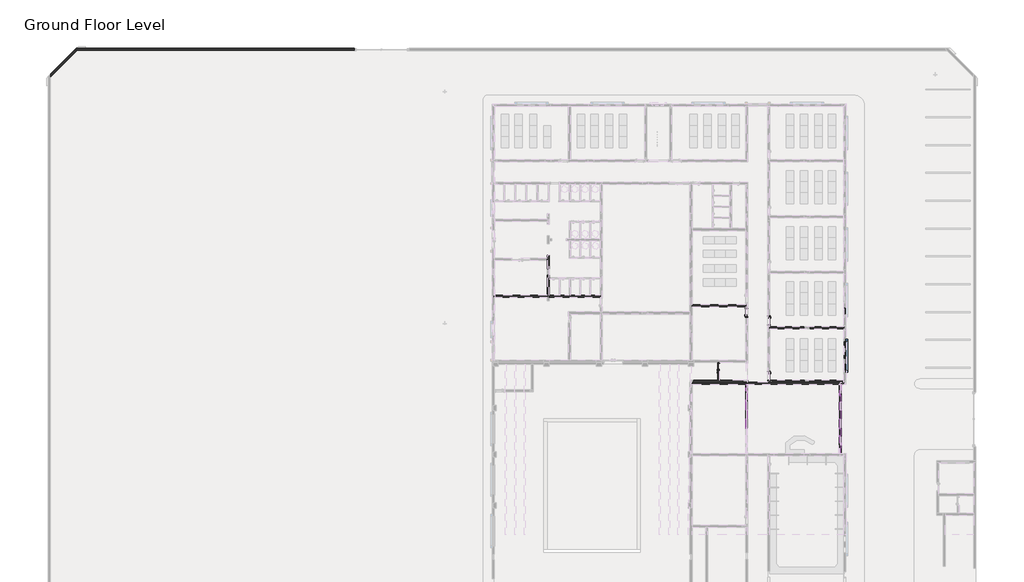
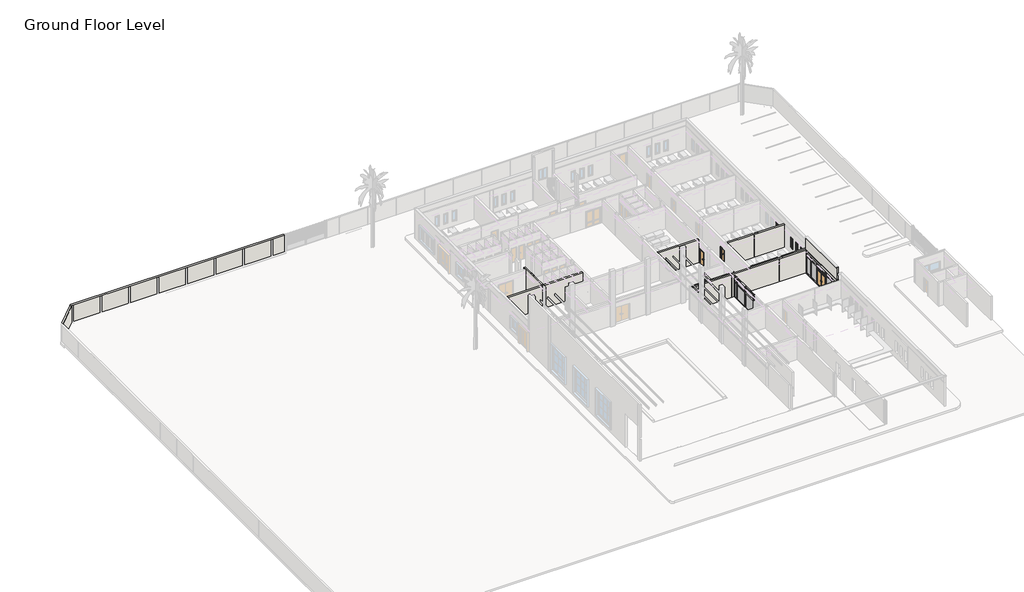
# One storey, part 6 of 23: 44 members, 16 plates, 11 walls, 5 doors, 5 windows.
"""IFC4 building model written with IfcOpenShell, lengths in millimetres."""

from ifc_helpers import new_model, si_unit, frame, origin, place, context, project, spatial, polyline, outline, extrude, faceted_brep, transform, mapped, element, save
from components import int_double_flush_nz_1800_x_2500_136b044d, int_single_flush_nz_900_x_2100_021ef152, m_curtain_wall_dbl_glass_m_curtain_wall_dbl_glass_e02fd95a, rectangular_mullion_50_x_150mm_c0aabc74, rectangular_mullion_50_x_150mm_79b53f25, rectangular_mullion_50_x_150mm_c9e8804c, rectangular_mullion_50_x_150mm_f0154c62, rectangular_mullion_50_x_150mm_3a148f0f, rectangular_mullion_50_x_150mm_5a145be0, rectangular_mullion_50_x_150mm_aa47fe12, rectangular_mullion_50_x_150mm_de483d99, rectangular_mullion_50_x_150mm_ab54daf0, rectangular_mullion_50_x_150mm_3a321350, rectangular_mullion_50_x_150mm_7a83b0e5, rectangular_mullion_50_x_150mm_9cef7b28, rectangular_mullion_50_x_150mm_4d58d98e, rectangular_mullion_50_x_150mm_792551fd, rectangular_mullion_50_x_150mm_23485ade, rectangular_mullion_50_x_150mm_35d6a770, rectangular_mullion_50_x_150mm_3ddb3363, rectangular_mullion_50_x_150mm_64d38db8, rectangular_mullion_50_x_150mm_68b3818a, system_panel_glazed_d0e91aec, system_panel_glazed_3409cc1e, system_panel_glazed_c55c287d, system_panel_glazed_65c4ff5a, system_panel_glazed_45c84e56, system_panel_glazed_78f5b605, system_panel_glazed_9a752446, system_panel_glazed_ebf72a38, system_panel_glazed_8493d7a6, system_panel_glazed_0c7632f4, system_panel_glazed_ec99e3cf, system_panel_glazed_dac4f711, window_batten_type_1_65f01d97, window_single_shutter_w3_b236610e

model = new_model("IFC4")

# Units and contexts
model_context = context("Model", 3, world=origin())
ifc_project = project(units=[si_unit("LENGTHUNIT", "METRE", prefix="MILLI")], contexts=[model_context])

# Site, building, storey
site = spatial("IfcSite", under=ifc_project)
building = spatial("IfcBuilding", under=site)
storey = spatial("IfcBuildingStorey", under=building, Name="Ground Floor Level", Elevation=900.0)

# Doors
placement = place(None, origin())
int_double_flush_nz_1800_x_2500_shape = int_double_flush_nz_1800_x_2500_136b044d(model_context)
element("IfcDoor", 1, ObjectType="Int Double-Flush (NZ) : 1800 x 2500", at=placement, inside=storey, context=model_context, shape_type="MappedRepresentation", body=[
    mapped(int_double_flush_nz_1800_x_2500_shape, transform((2362.7672395, -7149.7846466, 900.0), x_axis=(0.0, 1.0, 0.0), y_axis=(-1.0, 0.0, 0.0), z_axis=(0.0, 0.0, 1.0))),
])
int_single_flush_nz_900_x_2100_shape = int_single_flush_nz_900_x_2100_021ef152(model_context)
element("IfcDoor", 2, ObjectType="Int Single-Flush (NZ) : 900 x 2100", at=placement, inside=storey, context=model_context, shape_type="MappedRepresentation", body=[
    mapped(int_single_flush_nz_900_x_2100_shape, transform((7752.7672395, -1750.7846466, 1000.0), x_axis=(0.0, -1.0, 0.0), y_axis=(1.0, 0.0, 0.0), z_axis=(0.0, 0.0, 1.0))),
])
element("IfcDoor", 3, ObjectType="Int Single-Flush (NZ) : 900 x 2100", at=placement, inside=storey, context=model_context, shape_type="MappedRepresentation", body=[
    mapped(int_single_flush_nz_900_x_2100_shape, transform((7752.7672395, -7730.7846466, 1000.0), x_axis=(0.0, -1.0, 0.0), y_axis=(1.0, 0.0, 0.0), z_axis=(0.0, 0.0, 1.0))),
])
element("IfcDoor", 4, ObjectType="Int Single-Flush (NZ) : 900 x 2100", at=placement, inside=storey, context=model_context, shape_type="MappedRepresentation", body=[
    mapped(int_single_flush_nz_900_x_2100_shape, transform((5352.7672395, -758.7846466, 1000.0), x_axis=(0.0, 1.0, 0.0), y_axis=(-1.0, 0.0, 0.0), z_axis=(0.0, 0.0, 1.0))),
])
m_curtain_wall_dbl_glass_m_curtain_wall_dbl_glass_shape = m_curtain_wall_dbl_glass_m_curtain_wall_dbl_glass_e02fd95a(model_context)
element("IfcDoor", 5, ObjectType="M_Curtain Wall Dbl Glass : M_Curtain Wall Dbl Glass", at=placement, inside=storey, context=model_context, shape_type="MappedRepresentation", body=[
    mapped(m_curtain_wall_dbl_glass_m_curtain_wall_dbl_glass_shape, transform((15452.7672395, -12279.7846466, 1050.0), x_axis=(0.0, -1.0, 0.0), y_axis=(1.0, 0.0, 0.0), z_axis=(0.0, 0.0, 1.0))),
])

# Members
rectangular_mullion_50_x_150mm_shape = rectangular_mullion_50_x_150mm_c0aabc74(model_context)
element("IfcMember", 6, ObjectType="Rectangular Mullion : 50 x 150mm", at=placement, inside=storey, context=model_context, shape_type="MappedRepresentation", body=[
    mapped(rectangular_mullion_50_x_150mm_shape, transform((5352.7672395, -8614.7846466, 1000.0), x_axis=(0.0, 0.0, -1.0), y_axis=(-1.0, 0.0, 0.0), z_axis=(0.0, 1.0, 0.0))),
])
rectangular_mullion_50_x_150mm_2_shape = rectangular_mullion_50_x_150mm_79b53f25(model_context)
element("IfcMember", 7, ObjectType="Rectangular Mullion : 50 x 150mm", at=placement, inside=storey, context=model_context, shape_type="MappedRepresentation", body=[
    mapped(rectangular_mullion_50_x_150mm_2_shape, transform((5352.7672395, -11254.7846466, 1000.0), x_axis=(0.0, -1.0, 0.0), y_axis=(-1.0, 0.0, 0.0), z_axis=(0.0, 0.0, -1.0))),
])
element("IfcMember", 8, ObjectType="Rectangular Mullion : 50 x 150mm", at=placement, inside=storey, context=model_context, shape_type="MappedRepresentation", body=[
    mapped(rectangular_mullion_50_x_150mm_2_shape, transform((5352.7672395, -9204.7846466, 1000.0), x_axis=(0.0, -1.0, 0.0), y_axis=(-1.0, 0.0, 0.0), z_axis=(0.0, 0.0, -1.0))),
])
rectangular_mullion_50_x_150mm_3_shape = rectangular_mullion_50_x_150mm_c9e8804c(model_context)
element("IfcMember", 9, ObjectType="Rectangular Mullion : 50 x 150mm", at=placement, inside=storey, context=model_context, shape_type="MappedRepresentation", body=[
    mapped(rectangular_mullion_50_x_150mm_3_shape, transform((5352.7672395, -9179.7846466, 3250.0), x_axis=(0.0, 0.0, 1.0), y_axis=(-1.0, 0.0, 0.0), z_axis=(0.0, -1.0, 0.0))),
])
rectangular_mullion_50_x_150mm_4_shape = rectangular_mullion_50_x_150mm_f0154c62(model_context)
element("IfcMember", 10, ObjectType="Rectangular Mullion : 50 x 150mm", at=placement, inside=storey, context=model_context, shape_type="MappedRepresentation", body=[
    mapped(rectangular_mullion_50_x_150mm_4_shape, transform((15452.7672395, -14779.7846466, 3550.0), x_axis=(0.0, 0.0, 1.0), y_axis=(-1.0, 0.0, 0.0), z_axis=(0.0, -1.0, 0.0))),
])
element("IfcMember", 11, ObjectType="Rectangular Mullion : 50 x 150mm", at=placement, inside=storey, context=model_context, shape_type="MappedRepresentation", body=[
    mapped(rectangular_mullion_50_x_150mm_4_shape, transform((15452.7672395, -11229.7846466, 3550.0), x_axis=(0.0, 0.0, 1.0), y_axis=(-1.0, 0.0, 0.0), z_axis=(0.0, -1.0, 0.0))),
])
rectangular_mullion_50_x_150mm_5_shape = rectangular_mullion_50_x_150mm_3a148f0f(model_context)
element("IfcMember", 12, ObjectType="Rectangular Mullion : 50 x 150mm", at=placement, inside=storey, context=model_context, shape_type="MappedRepresentation", body=[
    mapped(rectangular_mullion_50_x_150mm_5_shape, transform((5352.7672395, -11229.7846466, 3250.0), x_axis=(0.0, 0.0, 1.0), y_axis=(-1.0, 0.0, 0.0), z_axis=(0.0, -1.0, 0.0))),
])
element("IfcMember", 13, ObjectType="Rectangular Mullion : 50 x 150mm", at=placement, inside=storey, context=model_context, shape_type="MappedRepresentation", body=[
    mapped(rectangular_mullion_50_x_150mm_5_shape, transform((15452.7672395, -13279.7846466, 3200.0), x_axis=(0.0, 0.0, 1.0), y_axis=(-1.0, 0.0, 0.0), z_axis=(0.0, -1.0, 0.0))),
])
element("IfcMember", 14, ObjectType="Rectangular Mullion : 50 x 150mm", at=placement, inside=storey, context=model_context, shape_type="MappedRepresentation", body=[
    mapped(rectangular_mullion_50_x_150mm_5_shape, transform((15452.7672395, -13279.7846466, 3550.0), x_axis=(0.0, 0.0, 1.0), y_axis=(-1.0, 0.0, 0.0), z_axis=(0.0, -1.0, 0.0))),
])
rectangular_mullion_50_x_150mm_6_shape = rectangular_mullion_50_x_150mm_5a145be0(model_context)
element("IfcMember", 15, ObjectType="Rectangular Mullion : 50 x 150mm", at=placement, inside=storey, context=model_context, shape_type="MappedRepresentation", body=[
    mapped(rectangular_mullion_50_x_150mm_6_shape, transform((15452.7672395, -13329.7846466, 1000.0), x_axis=(0.0, 0.0, -1.0), y_axis=(-1.0, 0.0, 0.0), z_axis=(0.0, 1.0, 0.0))),
])
element("IfcMember", 16, ObjectType="Rectangular Mullion : 50 x 150mm", at=placement, inside=storey, context=model_context, shape_type="MappedRepresentation", body=[
    mapped(rectangular_mullion_50_x_150mm_6_shape, transform((15452.7672395, -9779.7846466, 1000.0), x_axis=(0.0, 0.0, -1.0), y_axis=(-1.0, 0.0, 0.0), z_axis=(0.0, 1.0, 0.0))),
])
rectangular_mullion_50_x_150mm_7_shape = rectangular_mullion_50_x_150mm_aa47fe12(model_context)
element("IfcMember", 17, ObjectType="Rectangular Mullion : 50 x 150mm", at=placement, inside=storey, context=model_context, shape_type="MappedRepresentation", body=[
    mapped(rectangular_mullion_50_x_150mm_7_shape, transform((5352.7672395, -11279.7846466, 1000.0), x_axis=(0.0, 0.0, -1.0), y_axis=(-1.0, 0.0, 0.0), z_axis=(0.0, 1.0, 0.0))),
])
element("IfcMember", 18, ObjectType="Rectangular Mullion : 50 x 150mm", at=placement, inside=storey, context=model_context, shape_type="MappedRepresentation", body=[
    mapped(rectangular_mullion_50_x_150mm_7_shape, transform((5352.7672395, -9229.7846466, 1000.0), x_axis=(0.0, 0.0, -1.0), y_axis=(-1.0, 0.0, 0.0), z_axis=(0.0, 1.0, 0.0))),
])
element("IfcMember", 19, ObjectType="Rectangular Mullion : 50 x 150mm", at=placement, inside=storey, context=model_context, shape_type="MappedRepresentation", body=[
    mapped(rectangular_mullion_50_x_150mm_7_shape, transform((15452.7672395, -11279.7846466, 1000.0), x_axis=(0.0, 0.0, -1.0), y_axis=(-1.0, 0.0, 0.0), z_axis=(0.0, 1.0, 0.0))),
])
element("IfcMember", 20, ObjectType="Rectangular Mullion : 50 x 150mm", at=placement, inside=storey, context=model_context, shape_type="MappedRepresentation", body=[
    mapped(rectangular_mullion_50_x_150mm_6_shape, transform((15452.7672395, -14779.7846466, 4150.0), x_axis=(0.0, 0.0, 1.0), y_axis=(-1.0, 0.0, 0.0), z_axis=(0.0, -1.0, 0.0))),
])
element("IfcMember", 21, ObjectType="Rectangular Mullion : 50 x 150mm", at=placement, inside=storey, context=model_context, shape_type="MappedRepresentation", body=[
    mapped(rectangular_mullion_50_x_150mm_6_shape, transform((15452.7672395, -11229.7846466, 4150.0), x_axis=(0.0, 0.0, 1.0), y_axis=(-1.0, 0.0, 0.0), z_axis=(0.0, -1.0, 0.0))),
])
element("IfcMember", 22, ObjectType="Rectangular Mullion : 50 x 150mm", at=placement, inside=storey, context=model_context, shape_type="MappedRepresentation", body=[
    mapped(rectangular_mullion_50_x_150mm_7_shape, transform((5352.7672395, -13279.7846466, 4150.0), x_axis=(0.0, 0.0, 1.0), y_axis=(-1.0, 0.0, 0.0), z_axis=(0.0, -1.0, 0.0))),
])
element("IfcMember", 23, ObjectType="Rectangular Mullion : 50 x 150mm", at=placement, inside=storey, context=model_context, shape_type="MappedRepresentation", body=[
    mapped(rectangular_mullion_50_x_150mm_7_shape, transform((5352.7672395, -11229.7846466, 4150.0), x_axis=(0.0, 0.0, 1.0), y_axis=(-1.0, 0.0, 0.0), z_axis=(0.0, -1.0, 0.0))),
])
element("IfcMember", 24, ObjectType="Rectangular Mullion : 50 x 150mm", at=placement, inside=storey, context=model_context, shape_type="MappedRepresentation", body=[
    mapped(rectangular_mullion_50_x_150mm_7_shape, transform((15452.7672395, -13279.7846466, 4150.0), x_axis=(0.0, 0.0, 1.0), y_axis=(-1.0, 0.0, 0.0), z_axis=(0.0, -1.0, 0.0))),
])
element("IfcMember", 25, ObjectType="Rectangular Mullion : 50 x 150mm", at=placement, inside=storey, context=model_context, shape_type="MappedRepresentation", body=[
    mapped(rectangular_mullion_50_x_150mm_shape, transform((5352.7672395, -9179.7846466, 4150.0), x_axis=(0.0, 0.0, 1.0), y_axis=(-1.0, 0.0, 0.0), z_axis=(0.0, -1.0, 0.0))),
])
rectangular_mullion_50_x_150mm_8_shape = rectangular_mullion_50_x_150mm_de483d99(model_context)
element("IfcMember", 26, ObjectType="Rectangular Mullion : 50 x 150mm", at=placement, inside=storey, context=model_context, shape_type="MappedRepresentation", body=[
    mapped(rectangular_mullion_50_x_150mm_8_shape, transform((5352.7672395, -8564.7846466, 3250.0), x_axis=(0.0, 1.0, 0.0), y_axis=(-1.0, 0.0, 0.0), z_axis=(0.0, 0.0, 1.0))),
])
rectangular_mullion_50_x_150mm_9_shape = rectangular_mullion_50_x_150mm_ab54daf0(model_context)
element("IfcMember", 27, ObjectType="Rectangular Mullion : 50 x 150mm", at=placement, inside=storey, context=model_context, shape_type="MappedRepresentation", body=[
    mapped(rectangular_mullion_50_x_150mm_9_shape, transform((15452.7672395, -8614.7846466, 1000.0), x_axis=(0.0, 0.0, -1.0), y_axis=(-1.0, 0.0, 0.0), z_axis=(0.0, 1.0, 0.0))),
])
rectangular_mullion_50_x_150mm_10_shape = rectangular_mullion_50_x_150mm_3a321350(model_context)
element("IfcMember", 28, ObjectType="Rectangular Mullion : 50 x 150mm", at=placement, inside=storey, context=model_context, shape_type="MappedRepresentation", body=[
    mapped(rectangular_mullion_50_x_150mm_10_shape, transform((15452.7672395, -14829.7846466, 1000.0), x_axis=(0.0, 0.0, -1.0), y_axis=(-1.0, 0.0, 0.0), z_axis=(0.0, 1.0, 0.0))),
])
element("IfcMember", 29, ObjectType="Rectangular Mullion : 50 x 150mm", at=placement, inside=storey, context=model_context, shape_type="MappedRepresentation", body=[
    mapped(rectangular_mullion_50_x_150mm_9_shape, transform((15452.7672395, -9729.7846466, 4150.0), x_axis=(0.0, 0.0, 1.0), y_axis=(-1.0, 0.0, 0.0), z_axis=(0.0, -1.0, 0.0))),
])
rectangular_mullion_50_x_150mm_11_shape = rectangular_mullion_50_x_150mm_7a83b0e5(model_context)
element("IfcMember", 30, ObjectType="Rectangular Mullion : 50 x 150mm", at=placement, inside=storey, context=model_context, shape_type="MappedRepresentation", body=[
    mapped(rectangular_mullion_50_x_150mm_11_shape, transform((15452.7672395, -14804.7846466, 3200.0), x_axis=(0.0, -1.0, 0.0), y_axis=(-1.0, 0.0, 0.0), z_axis=(0.0, 0.0, -1.0))),
])
element("IfcMember", 31, ObjectType="Rectangular Mullion : 50 x 150mm", at=placement, inside=storey, context=model_context, shape_type="MappedRepresentation", body=[
    mapped(rectangular_mullion_50_x_150mm_11_shape, transform((15452.7672395, -9754.7846466, 3200.0), x_axis=(0.0, -1.0, 0.0), y_axis=(-1.0, 0.0, 0.0), z_axis=(0.0, 0.0, -1.0))),
])
element("IfcMember", 32, ObjectType="Rectangular Mullion : 50 x 150mm", at=placement, inside=storey, context=model_context, shape_type="MappedRepresentation", body=[
    mapped(rectangular_mullion_50_x_150mm_11_shape, transform((15452.7672395, -13304.7846466, 3200.0), x_axis=(0.0, -1.0, 0.0), y_axis=(-1.0, 0.0, 0.0), z_axis=(0.0, 0.0, -1.0))),
])
element("IfcMember", 33, ObjectType="Rectangular Mullion : 50 x 150mm", at=placement, inside=storey, context=model_context, shape_type="MappedRepresentation", body=[
    mapped(rectangular_mullion_50_x_150mm_11_shape, transform((15452.7672395, -11254.7846466, 3200.0), x_axis=(0.0, -1.0, 0.0), y_axis=(-1.0, 0.0, 0.0), z_axis=(0.0, 0.0, -1.0))),
])
rectangular_mullion_50_x_150mm_12_shape = rectangular_mullion_50_x_150mm_9cef7b28(model_context)
element("IfcMember", 34, ObjectType="Rectangular Mullion : 50 x 150mm", at=placement, inside=storey, context=model_context, shape_type="MappedRepresentation", body=[
    mapped(rectangular_mullion_50_x_150mm_12_shape, transform((15452.7672395, -14804.7846466, 1000.0), x_axis=(0.0, -1.0, 0.0), y_axis=(-1.0, 0.0, 0.0), z_axis=(0.0, 0.0, -1.0))),
])
element("IfcMember", 35, ObjectType="Rectangular Mullion : 50 x 150mm", at=placement, inside=storey, context=model_context, shape_type="MappedRepresentation", body=[
    mapped(rectangular_mullion_50_x_150mm_12_shape, transform((15452.7672395, -9754.7846466, 1000.0), x_axis=(0.0, -1.0, 0.0), y_axis=(-1.0, 0.0, 0.0), z_axis=(0.0, 0.0, -1.0))),
])
element("IfcMember", 36, ObjectType="Rectangular Mullion : 50 x 150mm", at=placement, inside=storey, context=model_context, shape_type="MappedRepresentation", body=[
    mapped(rectangular_mullion_50_x_150mm_12_shape, transform((15452.7672395, -13304.7846466, 1000.0), x_axis=(0.0, -1.0, 0.0), y_axis=(-1.0, 0.0, 0.0), z_axis=(0.0, 0.0, -1.0))),
])
element("IfcMember", 37, ObjectType="Rectangular Mullion : 50 x 150mm", at=placement, inside=storey, context=model_context, shape_type="MappedRepresentation", body=[
    mapped(rectangular_mullion_50_x_150mm_12_shape, transform((15452.7672395, -11254.7846466, 1000.0), x_axis=(0.0, -1.0, 0.0), y_axis=(-1.0, 0.0, 0.0), z_axis=(0.0, 0.0, -1.0))),
])
rectangular_mullion_50_x_150mm_13_shape = rectangular_mullion_50_x_150mm_4d58d98e(model_context)
element("IfcMember", 38, ObjectType="Rectangular Mullion : 50 x 150mm", at=placement, inside=storey, context=model_context, shape_type="MappedRepresentation", body=[
    mapped(rectangular_mullion_50_x_150mm_13_shape, transform((15452.7672395, -9729.7846466, 3550.0), x_axis=(0.0, 0.0, 1.0), y_axis=(-1.0, 0.0, 0.0), z_axis=(0.0, -1.0, 0.0))),
])
rectangular_mullion_50_x_150mm_14_shape = rectangular_mullion_50_x_150mm_792551fd(model_context)
element("IfcMember", 39, ObjectType="Rectangular Mullion : 50 x 150mm", at=placement, inside=storey, context=model_context, shape_type="MappedRepresentation", body=[
    mapped(rectangular_mullion_50_x_150mm_14_shape, transform((15452.7672395, -8564.7846466, 3200.0), x_axis=(0.0, 1.0, 0.0), y_axis=(-1.0, 0.0, 0.0), z_axis=(0.0, 0.0, 1.0))),
])
rectangular_mullion_50_x_150mm_15_shape = rectangular_mullion_50_x_150mm_23485ade(model_context)
element("IfcMember", 40, ObjectType="Rectangular Mullion : 50 x 150mm", at=placement, inside=storey, context=model_context, shape_type="MappedRepresentation", body=[
    mapped(rectangular_mullion_50_x_150mm_15_shape, transform((15452.7672395, -8564.7846466, 3550.0), x_axis=(0.0, 1.0, 0.0), y_axis=(-1.0, 0.0, 0.0), z_axis=(0.0, 0.0, 1.0))),
])
rectangular_mullion_50_x_150mm_16_shape = rectangular_mullion_50_x_150mm_35d6a770(model_context)
element("IfcMember", 41, ObjectType="Rectangular Mullion : 50 x 150mm", at=placement, inside=storey, context=model_context, shape_type="MappedRepresentation", body=[
    mapped(rectangular_mullion_50_x_150mm_16_shape, transform((5352.7672395, -8564.7846466, 4150.0), x_axis=(0.0, 1.0, 0.0), y_axis=(-1.0, 0.0, 0.0), z_axis=(0.0, 0.0, 1.0))),
])
rectangular_mullion_50_x_150mm_17_shape = rectangular_mullion_50_x_150mm_3ddb3363(model_context)
element("IfcMember", 42, ObjectType="Rectangular Mullion : 50 x 150mm", at=placement, inside=storey, context=model_context, shape_type="MappedRepresentation", body=[
    mapped(rectangular_mullion_50_x_150mm_17_shape, transform((5352.7672395, -13304.7846466, 3250.0), x_axis=(0.0, -1.0, 0.0), y_axis=(-1.0, 0.0, 0.0), z_axis=(0.0, 0.0, -1.0))),
])
element("IfcMember", 43, ObjectType="Rectangular Mullion : 50 x 150mm", at=placement, inside=storey, context=model_context, shape_type="MappedRepresentation", body=[
    mapped(rectangular_mullion_50_x_150mm_17_shape, transform((5352.7672395, -11254.7846466, 3250.0), x_axis=(0.0, -1.0, 0.0), y_axis=(-1.0, 0.0, 0.0), z_axis=(0.0, 0.0, -1.0))),
])
element("IfcMember", 44, ObjectType="Rectangular Mullion : 50 x 150mm", at=placement, inside=storey, context=model_context, shape_type="MappedRepresentation", body=[
    mapped(rectangular_mullion_50_x_150mm_17_shape, transform((5352.7672395, -9204.7846466, 3250.0), x_axis=(0.0, -1.0, 0.0), y_axis=(-1.0, 0.0, 0.0), z_axis=(0.0, 0.0, -1.0))),
])
rectangular_mullion_50_x_150mm_18_shape = rectangular_mullion_50_x_150mm_64d38db8(model_context)
element("IfcMember", 45, ObjectType="Rectangular Mullion : 50 x 150mm", at=placement, inside=storey, context=model_context, shape_type="MappedRepresentation", body=[
    mapped(rectangular_mullion_50_x_150mm_18_shape, transform((15452.7672395, -8564.7846466, 4150.0), x_axis=(0.0, 1.0, 0.0), y_axis=(-1.0, 0.0, 0.0), z_axis=(0.0, 0.0, 1.0))),
])
rectangular_mullion_50_x_150mm_19_shape = rectangular_mullion_50_x_150mm_68b3818a(model_context)
element("IfcMember", 46, ObjectType="Rectangular Mullion : 50 x 150mm", at=placement, inside=storey, context=model_context, shape_type="MappedRepresentation", body=[
    mapped(rectangular_mullion_50_x_150mm_19_shape, transform((15452.7672395, -14804.7846466, 3550.0), x_axis=(0.0, -1.0, 0.0), y_axis=(-1.0, 0.0, 0.0), z_axis=(0.0, 0.0, -1.0))),
])
element("IfcMember", 47, ObjectType="Rectangular Mullion : 50 x 150mm", at=placement, inside=storey, context=model_context, shape_type="MappedRepresentation", body=[
    mapped(rectangular_mullion_50_x_150mm_19_shape, transform((15452.7672395, -13304.7846466, 3550.0), x_axis=(0.0, -1.0, 0.0), y_axis=(-1.0, 0.0, 0.0), z_axis=(0.0, 0.0, -1.0))),
])
element("IfcMember", 48, ObjectType="Rectangular Mullion : 50 x 150mm", at=placement, inside=storey, context=model_context, shape_type="MappedRepresentation", body=[
    mapped(rectangular_mullion_50_x_150mm_19_shape, transform((15452.7672395, -11254.7846466, 3550.0), x_axis=(0.0, -1.0, 0.0), y_axis=(-1.0, 0.0, 0.0), z_axis=(0.0, 0.0, -1.0))),
])
element("IfcMember", 49, ObjectType="Rectangular Mullion : 50 x 150mm", at=placement, inside=storey, context=model_context, shape_type="MappedRepresentation", body=[
    mapped(rectangular_mullion_50_x_150mm_19_shape, transform((15452.7672395, -9754.7846466, 3550.0), x_axis=(0.0, -1.0, 0.0), y_axis=(-1.0, 0.0, 0.0), z_axis=(0.0, 0.0, -1.0))),
])

# Plates
system_panel_glazed_shape = system_panel_glazed_d0e91aec(model_context)
element("IfcPlate", 50, ObjectType="System Panel : Glazed", at=placement, inside=storey, context=model_context, shape_type="MappedRepresentation", body=[
    mapped(system_panel_glazed_shape, transform((5352.7672395, -8897.2846466, 1050.0), x_axis=(0.0, -1.0, 0.0), y_axis=(1.0, 0.0, 0.0), z_axis=(0.0, 0.0, 1.0))),
])
system_panel_glazed_2_shape = system_panel_glazed_3409cc1e(model_context)
element("IfcPlate", 51, ObjectType="System Panel : Glazed", at=placement, inside=storey, context=model_context, shape_type="MappedRepresentation", body=[
    mapped(system_panel_glazed_2_shape, transform((5352.7672395, -12279.7846466, 1050.0), x_axis=(0.0, -1.0, 0.0), y_axis=(1.0, 0.0, 0.0), z_axis=(0.0, 0.0, 1.0))),
])
element("IfcPlate", 52, ObjectType="System Panel : Glazed", at=placement, inside=storey, context=model_context, shape_type="MappedRepresentation", body=[
    mapped(system_panel_glazed_2_shape, transform((5352.7672395, -10229.7846466, 1050.0), x_axis=(0.0, -1.0, 0.0), y_axis=(1.0, 0.0, 0.0), z_axis=(0.0, 0.0, 1.0))),
])
system_panel_glazed_3_shape = system_panel_glazed_c55c287d(model_context)
element("IfcPlate", 53, ObjectType="System Panel : Glazed", at=placement, inside=storey, context=model_context, shape_type="MappedRepresentation", body=[
    mapped(system_panel_glazed_3_shape, transform((15452.7672395, -9172.2846466, 1050.0), x_axis=(0.0, -1.0, 0.0), y_axis=(1.0, 0.0, 0.0), z_axis=(0.0, 0.0, 1.0))),
])
system_panel_glazed_4_shape = system_panel_glazed_65c4ff5a(model_context)
element("IfcPlate", 54, ObjectType="System Panel : Glazed", at=placement, inside=storey, context=model_context, shape_type="MappedRepresentation", body=[
    mapped(system_panel_glazed_4_shape, transform((15452.7672395, -15417.2846466, 1050.0), x_axis=(0.0, -1.0, 0.0), y_axis=(1.0, 0.0, 0.0), z_axis=(0.0, 0.0, 1.0))),
])
system_panel_glazed_5_shape = system_panel_glazed_45c84e56(model_context)
element("IfcPlate", 55, ObjectType="System Panel : Glazed", at=placement, inside=storey, context=model_context, shape_type="MappedRepresentation", body=[
    mapped(system_panel_glazed_5_shape, transform((15452.7672395, -14054.7846466, 1050.0), x_axis=(0.0, -1.0, 0.0), y_axis=(1.0, 0.0, 0.0), z_axis=(0.0, 0.0, 1.0))),
])
element("IfcPlate", 56, ObjectType="System Panel : Glazed", at=placement, inside=storey, context=model_context, shape_type="MappedRepresentation", body=[
    mapped(system_panel_glazed_5_shape, transform((15452.7672395, -10504.7846466, 1050.0), x_axis=(0.0, -1.0, 0.0), y_axis=(1.0, 0.0, 0.0), z_axis=(0.0, 0.0, 1.0))),
])
system_panel_glazed_6_shape = system_panel_glazed_78f5b605(model_context)
element("IfcPlate", 57, ObjectType="System Panel : Glazed", at=placement, inside=storey, context=model_context, shape_type="MappedRepresentation", body=[
    mapped(system_panel_glazed_6_shape, transform((15452.7672395, -12279.7846466, 3225.0), x_axis=(0.0, -1.0, 0.0), y_axis=(1.0, 0.0, 0.0), z_axis=(0.0, 0.0, 1.0))),
])
system_panel_glazed_7_shape = system_panel_glazed_9a752446(model_context)
element("IfcPlate", 58, ObjectType="System Panel : Glazed", at=placement, inside=storey, context=model_context, shape_type="MappedRepresentation", body=[
    mapped(system_panel_glazed_7_shape, transform((5352.7672395, -8897.2846466, 3275.0), x_axis=(0.0, -1.0, 0.0), y_axis=(1.0, 0.0, 0.0), z_axis=(0.0, 0.0, 1.0))),
])
system_panel_glazed_8_shape = system_panel_glazed_ebf72a38(model_context)
element("IfcPlate", 59, ObjectType="System Panel : Glazed", at=placement, inside=storey, context=model_context, shape_type="MappedRepresentation", body=[
    mapped(system_panel_glazed_8_shape, transform((5352.7672395, -10229.7846466, 3275.0), x_axis=(0.0, -1.0, 0.0), y_axis=(1.0, 0.0, 0.0), z_axis=(0.0, 0.0, 1.0))),
])
element("IfcPlate", 60, ObjectType="System Panel : Glazed", at=placement, inside=storey, context=model_context, shape_type="MappedRepresentation", body=[
    mapped(system_panel_glazed_8_shape, transform((5352.7672395, -12279.7846466, 3275.0), x_axis=(0.0, -1.0, 0.0), y_axis=(1.0, 0.0, 0.0), z_axis=(0.0, 0.0, 1.0))),
])
system_panel_glazed_9_shape = system_panel_glazed_8493d7a6(model_context)
element("IfcPlate", 61, ObjectType="System Panel : Glazed", at=placement, inside=storey, context=model_context, shape_type="MappedRepresentation", body=[
    mapped(system_panel_glazed_9_shape, transform((15452.7672395, -9172.2846466, 3575.0), x_axis=(0.0, -1.0, 0.0), y_axis=(1.0, 0.0, 0.0), z_axis=(0.0, 0.0, 1.0))),
])
system_panel_glazed_10_shape = system_panel_glazed_0c7632f4(model_context)
element("IfcPlate", 62, ObjectType="System Panel : Glazed", at=placement, inside=storey, context=model_context, shape_type="MappedRepresentation", body=[
    mapped(system_panel_glazed_10_shape, transform((15452.7672395, -10504.7846466, 3575.0), x_axis=(0.0, -1.0, 0.0), y_axis=(1.0, 0.0, 0.0), z_axis=(0.0, 0.0, 1.0))),
])
element("IfcPlate", 63, ObjectType="System Panel : Glazed", at=placement, inside=storey, context=model_context, shape_type="MappedRepresentation", body=[
    mapped(system_panel_glazed_10_shape, transform((15452.7672395, -14054.7846466, 3575.0), x_axis=(0.0, -1.0, 0.0), y_axis=(1.0, 0.0, 0.0), z_axis=(0.0, 0.0, 1.0))),
])
system_panel_glazed_11_shape = system_panel_glazed_ec99e3cf(model_context)
element("IfcPlate", 64, ObjectType="System Panel : Glazed", at=placement, inside=storey, context=model_context, shape_type="MappedRepresentation", body=[
    mapped(system_panel_glazed_11_shape, transform((15452.7672395, -12279.7846466, 3575.0), x_axis=(0.0, -1.0, 0.0), y_axis=(1.0, 0.0, 0.0), z_axis=(0.0, 0.0, 1.0))),
])
system_panel_glazed_12_shape = system_panel_glazed_dac4f711(model_context)
element("IfcPlate", 65, ObjectType="System Panel : Glazed", at=placement, inside=storey, context=model_context, shape_type="MappedRepresentation", body=[
    mapped(system_panel_glazed_12_shape, transform((15452.7672395, -15417.2846466, 3575.0), x_axis=(0.0, -1.0, 0.0), y_axis=(1.0, 0.0, 0.0), z_axis=(0.0, 0.0, 1.0))),
])

# Walls
element("IfcWall", 66, ObjectType="Exterior - Blockwork 200mm", at=placement, inside=storey, context=model_context, shape_type="Brep", body=[
    faceted_brep([(15562.7672395, -16044.7846466, 900.0), (15562.7672395, -8564.7846466, 900.0), (15562.7672395, -8564.7846466, 1000.0), (15562.7672395, -16044.7846466, 1000.0), (15342.7672395, -8564.7846466, 900.0), (15342.7672395, -16044.7846466, 900.0), (15342.7672395, -16044.7846466, 1000.0), (15342.7672395, -8564.7846466, 1000.0), (15452.7672395, -16044.7846466, 900.0), (15452.7672395, -8564.7846466, 900.0)], [[[0, 1, 2, 3]], [[4, 5, 6, 7]], [[3, 6, 5, 8, 0]], [[7, 2, 1, 9, 4]], [[3, 2, 7, 6]], [[1, 0, 8, 5, 4, 9]]]),
    faceted_brep([(15562.7672395, -8564.7846466, 6301.5214377), (15562.7672395, -16044.7846466, 6301.5214377), (15562.7672395, -16044.7846466, 4150.0), (15562.7672395, -8564.7846466, 4150.0), (15342.7672395, -16044.7846466, 6301.5214377), (15342.7672395, -8564.7846466, 6301.5214377), (15342.7672395, -8564.7846466, 4550.0), (15342.7672395, -16044.7846466, 4550.0), (15342.7672395, -8564.7846466, 4150.0), (15342.7672395, -16044.7846466, 4150.0), (15342.7672395, -16044.7846466, 4400.0), (15342.7672395, -8564.7846466, 4400.0), (15552.7672395, -16044.7846466, 4550.0), (15552.7672395, -16044.7846466, 4400.0), (15552.7672395, -8564.7846466, 4400.0), (15552.7672395, -8564.7846466, 4550.0)], [[[0, 1, 2, 3]], [[4, 5, 6, 7]], [[8, 9, 10, 11]], [[2, 1, 4, 7, 12, 13, 10, 9]], [[0, 3, 8, 11, 14, 15, 6, 5]], [[3, 2, 9, 8]], [[15, 12, 7, 6]], [[12, 15, 14, 13]], [[13, 14, 11, 10]], [[1, 0, 5, 4]]]),
])
element("IfcWall", 67, ObjectType="Exterior - Blockwork 200mm", at=placement, inside=storey, context=model_context, shape_type="Brep", body=[
    faceted_brep([(-67127.2327605, 27465.2153534, 600.0), (-66816.1057768, 27465.2153534, 600.0), (-36947.2327605, 27465.2153534, 600.0), (-36947.2327605, 27465.2153534, 3100.0), (-66816.1057768, 27465.2153534, 3100.0), (-67127.2327605, 27465.2153534, 3100.0), (-66907.2327605, 27685.2153534, 600.0), (-66907.2327605, 27685.2153534, 3100.0), (-36947.2327605, 27685.2153534, 3100.0), (-36947.2327605, 27685.2153534, 600.0)], [[[0, 1, 2, 3, 4, 5]], [[6, 7, 8, 9]], [[2, 1, 0, 6, 9]], [[3, 2, 9, 8]], [[5, 4, 3, 8, 7]], [[0, 5, 7, 6]]]),
])
element("IfcWall", 68, ObjectType="Exterior - Blockwork 200mm", at=placement, inside=storey, context=model_context, shape_type="SweptSolid", body=[
    extrude(outline(polyline([(-66816.1057768, 27465.2153534), (-69727.2327605, 24554.0883697), (-69727.2327605, 24865.2153534), (-67127.2327605, 27465.2153534), (-66816.1057768, 27465.2153534)])), frame((0.0, 0.0, 600.0), z_axis=(0.0, 0.0, 1.0), x_axis=(1.0, 0.0, 0.0)), (0.0, 0.0, 1.0), 2500.0),
])
element("IfcWall", 69, ObjectType="Interior - Blockwork 200", at=placement, inside=storey, context=model_context, shape_type="Brep", body=[
    faceted_brep([(-16157.2327605, 5390.2153534, 900.0), (-16157.2327605, 5055.2153534, 900.0), (-16157.2327605, 4835.2153534, 900.0), (-16157.2327605, 1055.2153534, 900.0), (-16157.2327605, 1055.2153534, 4400.0), (-16157.2327605, 4835.2153534, 4400.0), (-16157.2327605, 5055.2153534, 4400.0), (-16157.2327605, 5390.2153534, 4400.0), (-15937.2327605, 1055.2153534, 900.0), (-15937.2327605, 2825.2153534, 900.0), (-15937.2327605, 2945.2153534, 900.0), (-15937.2327605, 5390.2153534, 900.0), (-15937.2327605, 5390.2153534, 4400.0), (-15937.2327605, 2945.2153534, 4400.0), (-15937.2327605, 2825.2153534, 4400.0), (-15937.2327605, 1055.2153534, 4400.0), (-15947.2327605, 3245.2153534, 900.0), (-15947.2327605, 3845.2153534, 900.0), (-16147.2327605, 3845.2153534, 900.0), (-16147.2327605, 3245.2153534, 900.0), (-15947.2327605, 3245.2153534, 4400.0), (-15947.2327605, 3845.2153534, 4400.0), (-16147.2327605, 3245.2153534, 4400.0), (-16147.2327605, 3845.2153534, 4400.0)], [[[0, 1, 2, 3, 4, 5, 6, 7]], [[8, 9, 10, 11, 12, 13, 14, 15]], [[3, 2, 1, 0, 11, 10, 9, 8], [16, 17, 18, 19]], [[0, 7, 12, 11]], [[4, 3, 8, 15]], [[16, 20, 21, 17]], [[20, 16, 19, 22]], [[22, 19, 18, 23]], [[23, 18, 17, 21]], [[7, 6, 5, 4, 15, 14, 13, 12], [21, 20, 22, 23]]]),
])
element("IfcWall", 70, ObjectType="Interior - Blockwork 200", at=placement, inside=storey, context=model_context, shape_type="Brep", body=[
    faceted_brep([(-10457.2327605, 835.2153534, 4400.0), (-15947.2327605, 835.2153534, 4400.0), (-15947.2327605, 835.2153534, 1000.0), (-10457.2327605, 835.2153534, 1000.0), (-16147.2327605, 835.2153534, 4400.0), (-21837.2327605, 835.2153534, 4400.0), (-21837.2327605, 835.2153534, 1000.0), (-16147.2327605, 835.2153534, 1000.0), (-21837.2327605, 1055.2153534, 4400.0), (-16157.2327605, 1055.2153534, 4400.0), (-15937.2327605, 1055.2153534, 4400.0), (-14857.2327605, 1055.2153534, 4400.0), (-14737.2327605, 1055.2153534, 4400.0), (-13757.2327605, 1055.2153534, 4400.0), (-13637.2327605, 1055.2153534, 4400.0), (-12657.2327605, 1055.2153534, 4400.0), (-12537.2327605, 1055.2153534, 4400.0), (-11557.2327605, 1055.2153534, 4400.0), (-11437.2327605, 1055.2153534, 4400.0), (-10457.2327605, 1055.2153534, 4400.0), (-10457.2327605, 1055.2153534, 1000.0), (-21837.2327605, 1055.2153534, 1000.0), (-10457.2327605, 845.2153534, 1000.0), (-15947.2327605, 1045.2153534, 4400.0), (-15947.2327605, 1045.2153534, 1000.0), (-16147.2327605, 1045.2153534, 4400.0), (-16147.2327605, 1045.2153534, 1000.0)], [[[0, 1, 2, 3]], [[4, 5, 6, 7]], [[8, 9, 10, 11, 12, 13, 14, 15, 16, 17, 18, 19, 20, 21]], [[19, 0, 3, 22, 20]], [[5, 8, 21, 6]], [[1, 23, 24, 2]], [[25, 4, 7, 26]], [[23, 25, 26, 24]], [[0, 19, 18, 17, 16, 15, 14, 13, 12, 11, 10, 9, 8, 5, 4, 25, 23, 1]], [[21, 20, 22, 3, 2, 24, 26, 7, 6]]]),
])
element("IfcWall", 71, ObjectType="Interior - Blockwork 200", at=placement, inside=storey, context=model_context, shape_type="Brep", body=[
    faceted_brep([(15842.7672395, -2344.7846466, 900.0), (7862.7672395, -2344.7846466, 900.0), (7862.7672395, -2344.7846466, 1000.0), (7862.7672395, -2344.7846466, 4400.0), (15842.7672395, -2344.7846466, 4400.0), (15842.7672395, -2344.7846466, 1000.0), (15842.7672395, -2564.7846466, 4400.0), (7862.7672395, -2564.7846466, 4400.0), (7862.7672395, -2564.7846466, 1000.0), (15842.7672395, -2564.7846466, 1000.0), (15842.7672395, -2554.7846466, 900.0), (12152.7672395, -2554.7846466, 900.0), (12152.7672395, -2354.7846466, 900.0), (11552.7672395, -2354.7846466, 900.0), (11552.7672395, -2554.7846466, 900.0), (7862.7672395, -2554.7846466, 900.0), (7862.7672395, -2554.7846466, 1000.0), (15842.7672395, -2554.7846466, 1000.0), (11552.7672395, -2554.7846466, 4400.0), (12152.7672395, -2554.7846466, 4400.0), (12152.7672395, -2554.7846466, 1000.0), (11552.7672395, -2554.7846466, 1000.0), (11552.7672395, -2354.7846466, 4400.0), (12152.7672395, -2354.7846466, 4400.0)], [[[0, 1, 2, 3, 4, 5]], [[6, 7, 8, 9]], [[1, 0, 10, 11, 12, 13, 14, 15]], [[3, 2, 1, 15, 16, 8, 7]], [[0, 5, 4, 6, 9, 17, 10]], [[18, 19, 20, 21]], [[13, 22, 18, 21, 14]], [[22, 13, 12, 23]], [[23, 12, 11, 20, 19]], [[4, 3, 7, 6], [19, 18, 22, 23]], [[16, 21, 20, 17, 9, 8]], [[21, 16, 15, 14]], [[17, 20, 11, 10]]]),
])
element("IfcWall", 72, ObjectType="Interior - Blockwork 200", at=placement, inside=storey, context=model_context, shape_type="Brep", body=[
    faceted_brep([(-537.2327605, -8354.7846466, 900.0), (5462.7672395, -8354.7846466, 900.0), (5462.7672395, -8354.7846466, 4400.0), (-537.2327605, -8354.7846466, 4400.0), (5462.7672395, -8134.7846466, 900.0), (5452.7672395, -8134.7846466, 900.0), (5452.7672395, -8134.7846466, 910.0), (5452.7672395, -8134.7846466, 4400.0), (5462.7672395, -8134.7846466, 4400.0), (5462.7672395, -8134.7846466, 1000.0), (-347.2327605, -8134.7846466, 4400.0), (4952.7672395, -8134.7846466, 4400.0), (4952.7672395, -8134.7846466, 910.0), (-347.2327605, -8134.7846466, 910.0), (-537.2327605, -8344.7846466, 900.0), (-537.2327605, -8334.7846466, 900.0), (-347.2327605, -8334.7846466, 900.0), (-347.2327605, -8144.7846466, 900.0), (4952.7672395, -8144.7846466, 900.0), (4952.7672395, -8334.7846466, 900.0), (5452.7672395, -8334.7846466, 900.0), (5452.7672395, -8144.7846466, 900.0), (5452.7672395, -8334.7846466, 4400.0), (4952.7672395, -8334.7846466, 4400.0), (4952.7672395, -8144.7846466, 910.0), (-347.2327605, -8334.7846466, 4400.0), (-347.2327605, -8144.7846466, 910.0), (-537.2327605, -8334.7846466, 4400.0), (-537.2327605, -8344.7846466, 4400.0)], [[[0, 1, 2, 3]], [[4, 5, 6, 7, 8, 9]], [[10, 11, 12, 13]], [[1, 0, 14, 15, 16, 17, 18, 19, 20, 21, 5, 4]], [[20, 22, 7, 6, 5, 21]], [[22, 20, 19, 23]], [[23, 19, 18, 24, 12, 11]], [[16, 25, 10, 13, 26, 17]], [[25, 16, 15, 27]], [[0, 3, 28, 27, 15, 14]], [[3, 2, 8, 7, 22, 23, 11, 10, 25, 27, 28]], [[24, 26, 13, 12]], [[26, 24, 18, 17]], [[2, 1, 4, 9, 8]]]),
])
element("IfcWall", 73, ObjectType="Interior - Blockwork 200", at=placement, inside=storey, context=model_context, shape_type="SweptSolid", body=[
    extrude(outline(polyline([(-164.7846466, 4400.0), (55.2153534, 4400.0), (55.2153534, 1000.0), (45.2153534, 1000.0), (45.2153534, 900.0), (-154.7846466, 900.0), (-154.7846466, 1000.0), (-164.7846466, 1000.0), (-164.7846466, 4400.0)])), frame((-537.2327605, 0.0, 0.0), z_axis=(1.0, 0.0, 0.0), x_axis=(0.0, 1.0, 0.0)), (0.0, 0.0, 1.0), 5780.0),
])
element("IfcWall", 74, ObjectType="Interior - Blockwork 200", at=placement, inside=storey, context=model_context, shape_type="Brep", body=[
    faceted_brep([(7862.7672395, -8124.7846466, 4400.0), (15842.7672395, -8124.7846466, 4400.0), (15842.7672395, -8124.7846466, 1000.0), (7862.7672395, -8124.7846466, 1000.0), (7862.7672395, -8124.7846466, 3119.0), (7862.7672395, -8344.7846466, 900.0), (15842.7672395, -8344.7846466, 900.0), (15842.7672395, -8344.7846466, 4400.0), (7862.7672395, -8344.7846466, 4400.0), (7862.7672395, -8334.7846466, 900.0), (8152.7672395, -8334.7846466, 900.0), (8152.7672395, -8134.7846466, 900.0), (11602.7672395, -8134.7846466, 900.0), (11602.7672395, -8334.7846466, 900.0), (12102.7672395, -8334.7846466, 900.0), (12102.7672395, -8134.7846466, 900.0), (15652.7672395, -8134.7846466, 900.0), (15652.7672395, -8334.7846466, 900.0), (15842.7672395, -8334.7846466, 900.0), (7862.7672395, -8334.7846466, 4400.0), (7862.7672395, -8134.7846466, 4400.0), (7862.7672395, -8134.7846466, 1000.0), (15842.7672395, -8334.7846466, 4400.0), (15842.7672395, -8134.7846466, 4400.0), (15842.7672395, -8134.7846466, 1000.0), (8152.7672395, -8134.7846466, 4400.0), (8152.7672395, -8134.7846466, 1000.0), (8152.7672395, -8334.7846466, 4400.0), (12102.7672395, -8134.7846466, 4400.0), (11602.7672395, -8134.7846466, 4400.0), (11602.7672395, -8134.7846466, 1000.0), (12102.7672395, -8134.7846466, 1000.0), (12102.7672395, -8334.7846466, 4400.0), (11602.7672395, -8334.7846466, 4400.0), (15652.7672395, -8134.7846466, 4400.0), (15652.7672395, -8134.7846466, 1000.0), (15652.7672395, -8334.7846466, 4400.0)], [[[0, 1, 2, 3, 4]], [[5, 6, 7, 8]], [[6, 5, 9, 10, 11, 12, 13, 14, 15, 16, 17, 18]], [[5, 8, 19, 9]], [[20, 0, 4, 3, 21]], [[7, 6, 18, 22]], [[1, 23, 24, 2]], [[25, 20, 21, 26]], [[10, 27, 25, 26, 11]], [[27, 10, 9, 19]], [[28, 29, 30, 31]], [[14, 32, 28, 31, 15]], [[32, 14, 13, 33]], [[33, 13, 12, 30, 29]], [[23, 34, 35, 24]], [[17, 36, 22, 18]], [[36, 17, 16, 35, 34]], [[1, 0, 20, 25, 27, 19, 8, 7, 22, 36, 34, 23], [29, 28, 32, 33]], [[30, 26, 21, 3, 2, 24, 35, 31]], [[26, 30, 12, 11]], [[31, 35, 16, 15]]]),
])
element("IfcWall", 75, ObjectType="Interior - Blockwork 200", at=placement, inside=storey, context=model_context, shape_type="Brep", body=[
    faceted_brep([(-537.2327605, -8344.7846466, 4400.0), (7642.7672395, -8344.7846466, 4400.0), (7862.7672395, -8344.7846466, 4400.0), (15452.7672395, -8344.7846466, 4400.0), (15842.7672395, -8344.7846466, 4400.0), (15842.7672395, -8344.7846466, 900.0), (7862.7672395, -8344.7846466, 900.0), (7652.7672395, -8344.7846466, 900.0), (7652.7672395, -8344.7846466, 1000.0), (7642.7672395, -8344.7846466, 1000.0), (5452.7672395, -8344.7846466, 1000.0), (5452.7672395, -8344.7846466, 900.0), (-537.2327605, -8344.7846466, 900.0), (15842.7672395, -8564.7846466, 4400.0), (-537.2327605, -8564.7846466, 4400.0), (-537.2327605, -8564.7846466, 1000.0), (15452.7672395, -8564.7846466, 1000.0), (15452.7672395, -8564.7846466, 900.0), (15562.7672395, -8564.7846466, 900.0), (15842.7672395, -8564.7846466, 900.0), (15842.7672395, -8354.7846466, 900.0), (15842.7672395, -8554.7846466, 900.0), (15452.7672395, -8554.7846466, 900.0), (-537.2327605, -8554.7846466, 900.0), (-537.2327605, -8354.7846466, 900.0), (5452.7672395, -8354.7846466, 900.0), (7652.7672395, -8354.7846466, 900.0), (-537.2327605, -8354.7846466, 4400.0), (-537.2327605, -8554.7846466, 4400.0), (15842.7672395, -8554.7846466, 4400.0), (15842.7672395, -8354.7846466, 4400.0), (-537.2327605, -8554.7846466, 1000.0), (15452.7672395, -8554.7846466, 1000.0), (7652.7672395, -8354.7846466, 1000.0), (5452.7672395, -8354.7846466, 1000.0)], [[[0, 1, 2, 3, 4, 5, 6, 7, 8, 9, 10, 11, 12]], [[13, 14, 15, 16, 17, 18, 19]], [[5, 20, 21, 19, 18, 17, 22, 23, 24, 12, 11, 25, 26, 7, 6]], [[4, 3, 2, 1, 0, 27, 28, 14, 13, 29, 30]], [[0, 12, 24, 23, 31, 15, 14, 28, 27]], [[5, 4, 30, 29, 13, 19, 21, 20]], [[31, 32, 16, 15]], [[22, 32, 31, 23]], [[32, 22, 17, 16]], [[33, 34, 10, 9, 8]], [[26, 33, 8, 7]], [[34, 33, 26, 25]], [[34, 25, 11, 10]]]),
])
element("IfcWall", 76, ObjectType="Interior - Blockwork 200", at=placement, inside=storey, context=model_context, shape_type="SweptSolid", body=[
    extrude(outline(polyline([(-8134.7846466, 4100.0), (-6164.7846466, 4100.0), (-6164.7846466, 900.0), (-6230.7846466, 900.0), (-6230.7846466, 3419.0), (-8068.7846466, 3419.0), (-8068.7846466, 900.0), (-8134.7846466, 900.0), (-8134.7846466, 4100.0)])), frame((2252.7672395, 0.0, 0.0), z_axis=(1.0, 0.0, 0.0), x_axis=(0.0, 1.0, 0.0)), (0.0, 0.0, 1.0), 220.0),
])

# Windows
window_batten_type_1_shape = window_batten_type_1_65f01d97(model_context)
element("IfcWindow", 77, ObjectType="Window Batten : Type 1", at=placement, inside=storey, context=model_context, shape_type="MappedRepresentation", body=[
    mapped(window_batten_type_1_shape, transform((15952.7672395, -5588.6537548, 984.2726339), x_axis=(0.0, 1.0, 0.0), y_axis=(-1.0, 0.0, 0.0), z_axis=(0.0, 0.0, 1.0))),
])
window_single_shutter_w3_shape = window_single_shutter_w3_b236610e(model_context)
element("IfcWindow", 78, ObjectType="Window- Single Shutter : W3", at=placement, inside=storey, context=model_context, shape_type="MappedRepresentation", body=[
    mapped(window_single_shutter_w3_shape, transform((15947.7672395, -654.7846466, 1000.0), x_axis=(0.0, -1.0, 0.0), y_axis=(1.0, 0.0, 0.0), z_axis=(0.0, 0.0, 1.0))),
])
element("IfcWindow", 79, ObjectType="Window- Single Shutter : W3", at=placement, inside=storey, context=model_context, shape_type="MappedRepresentation", body=[
    mapped(window_single_shutter_w3_shape, transform((15947.7672395, -4244.7846466, 1000.0), x_axis=(0.0, -1.0, 0.0), y_axis=(1.0, 0.0, 0.0), z_axis=(0.0, 0.0, 1.0))),
])
element("IfcWindow", 80, ObjectType="Window- Single Shutter : W3", at=placement, inside=storey, context=model_context, shape_type="MappedRepresentation", body=[
    mapped(window_single_shutter_w3_shape, transform((15947.7672395, -5444.7846466, 1000.0), x_axis=(0.0, -1.0, 0.0), y_axis=(1.0, 0.0, 0.0), z_axis=(0.0, 0.0, 1.0))),
])
element("IfcWindow", 81, ObjectType="Window- Single Shutter : W3", at=placement, inside=storey, context=model_context, shape_type="MappedRepresentation", body=[
    mapped(window_single_shutter_w3_shape, transform((15947.7672395, -6664.7846466, 1000.0), x_axis=(0.0, -1.0, 0.0), y_axis=(1.0, 0.0, 0.0), z_axis=(0.0, 0.0, 1.0))),
])

save(model, "model.ifc")
